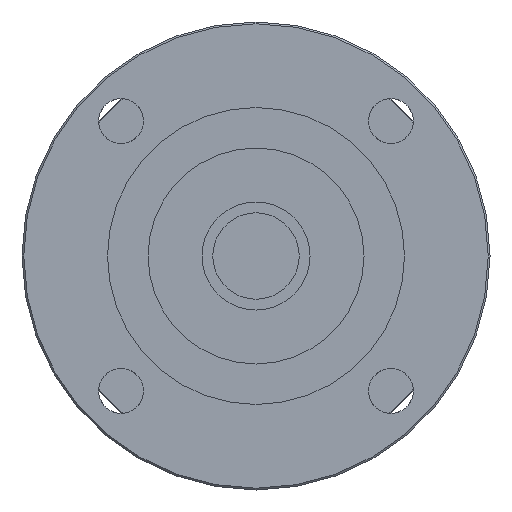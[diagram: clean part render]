
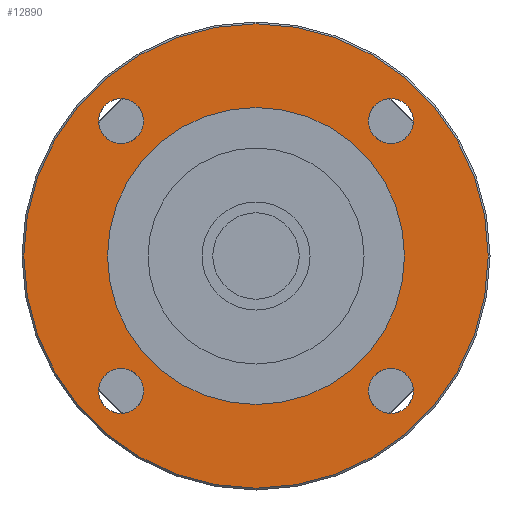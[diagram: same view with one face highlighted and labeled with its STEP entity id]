
A CAD part, left-side view. The second image highlights one B-rep face of the part: STEP entity #12890.
In plain terms, the highlighted planar face has unit normal (-1, 0, 0) as drawn and (0, 0, -1) by its records, which use the part's own axes.
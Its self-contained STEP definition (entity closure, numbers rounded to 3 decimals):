
#11810=CARTESIAN_POINT('',(-64.5,0.,-79.9));
#11820=VERTEX_POINT('',#11810);
#11850=CARTESIAN_POINT('',(0.,0.,
-79.9));
#11860=DIRECTION('',(0.,0.,-1.));
#11870=DIRECTION('',(1.,0.,0.));
#11880=AXIS2_PLACEMENT_3D('',#11850,#11860,#11870);
#11890=CIRCLE('',#11880,64.5);
#11900=CARTESIAN_POINT('',(64.5,0.,-79.9));
#11910=VERTEX_POINT('',#11900);
#11920=EDGE_CURVE('',#11820,#11910,#11890,.T.);
#12040=CARTESIAN_POINT('',(0.,0.,
-79.9));
#12050=DIRECTION('',(0.,0.,-1.));
#12060=DIRECTION('',(1.,0.,0.));
#12070=AXIS2_PLACEMENT_3D('',#12040,#12050,#12060);
#12080=PLANE('',#12070);
#12090=CARTESIAN_POINT('',(-37.477,-37.477,-79.9));
#12100=DIRECTION('',(0.,0.,-1.));
#12110=DIRECTION('',(1.,0.,0.));
#12120=AXIS2_PLACEMENT_3D('',#12090,#12100,#12110);
#12130=CIRCLE('',#12120,6.25);
#12140=CARTESIAN_POINT('',(-31.227,-37.477,-79.9));
#12150=VERTEX_POINT('',#12140);
#12160=CARTESIAN_POINT('',(-43.727,-37.477,-79.9));
#12170=VERTEX_POINT('',#12160);
#12180=EDGE_CURVE('',#12150,#12170,#12130,.T.);
#12190=ORIENTED_EDGE('',*,*,#12180,.F.);
#12200=EDGE_CURVE('',#12170,#12150,#12130,.T.);
#12210=ORIENTED_EDGE('',*,*,#12200,.F.);
#12220=EDGE_LOOP('',(#12210,#12190));
#12230=FACE_BOUND('',#12220,.T.);
#12240=CARTESIAN_POINT('',(-37.477,37.477,-79.9));
#12250=DIRECTION('',(0.,0.,-1.));
#12260=DIRECTION('',(1.,0.,0.));
#12270=AXIS2_PLACEMENT_3D('',#12240,#12250,#12260);
#12280=CIRCLE('',#12270,6.25);
#12290=CARTESIAN_POINT('',(-31.227,37.477,-79.9));
#12300=VERTEX_POINT('',#12290);
#12310=CARTESIAN_POINT('',(-43.727,37.477,-79.9));
#12320=VERTEX_POINT('',#12310);
#12330=EDGE_CURVE('',#12300,#12320,#12280,.T.);
#12340=ORIENTED_EDGE('',*,*,#12330,.F.);
#12350=EDGE_CURVE('',#12320,#12300,#12280,.T.);
#12360=ORIENTED_EDGE('',*,*,#12350,.F.);
#12370=EDGE_LOOP('',(#12360,#12340));
#12380=FACE_BOUND('',#12370,.T.);
#12390=CARTESIAN_POINT('',(37.477,37.477,-79.9));
#12400=DIRECTION('',(0.,0.,-1.));
#12410=DIRECTION('',(1.,0.,0.));
#12420=AXIS2_PLACEMENT_3D('',#12390,#12400,#12410);
#12430=CIRCLE('',#12420,6.25);
#12440=CARTESIAN_POINT('',(43.727,37.477,-79.9));
#12450=VERTEX_POINT('',#12440);
#12460=CARTESIAN_POINT('',(31.227,37.477,-79.9));
#12470=VERTEX_POINT('',#12460);
#12480=EDGE_CURVE('',#12450,#12470,#12430,.T.);
#12490=ORIENTED_EDGE('',*,*,#12480,.F.);
#12500=EDGE_CURVE('',#12470,#12450,#12430,.T.);
#12510=ORIENTED_EDGE('',*,*,#12500,.F.);
#12520=EDGE_LOOP('',(#12510,#12490));
#12530=FACE_BOUND('',#12520,.T.);
#12540=CARTESIAN_POINT('',(37.477,-37.477,-79.9));
#12550=DIRECTION('',(0.,0.,-1.));
#12560=DIRECTION('',(1.,0.,0.));
#12570=AXIS2_PLACEMENT_3D('',#12540,#12550,#12560);
#12580=CIRCLE('',#12570,6.25);
#12590=CARTESIAN_POINT('',(43.727,-37.477,-79.9));
#12600=VERTEX_POINT('',#12590);
#12610=CARTESIAN_POINT('',(31.227,-37.477,-79.9));
#12620=VERTEX_POINT('',#12610);
#12630=EDGE_CURVE('',#12600,#12620,#12580,.T.);
#12640=ORIENTED_EDGE('',*,*,#12630,.F.);
#12650=EDGE_CURVE('',#12620,#12600,#12580,.T.);
#12660=ORIENTED_EDGE('',*,*,#12650,.F.);
#12670=EDGE_LOOP('',(#12660,#12640));
#12680=FACE_BOUND('',#12670,.T.);
#12690=EDGE_CURVE('',#11910,#11820,#11890,.T.);
#12700=ORIENTED_EDGE('',*,*,#12690,.T.);
#12710=ORIENTED_EDGE('',*,*,#11920,.T.);
#12720=EDGE_LOOP('',(#12710,#12700));
#12730=FACE_OUTER_BOUND('',#12720,.T.);
#12740=CARTESIAN_POINT('',(0.,0.,
-79.9));
#12750=DIRECTION('',(0.,0.,1.));
#12760=DIRECTION('',(1.,0.,0.));
#12770=AXIS2_PLACEMENT_3D('',#12740,#12750,#12760);
#12780=CIRCLE('',#12770,41.25);
#12790=CARTESIAN_POINT('',(41.25,0.,-79.9));
#12800=VERTEX_POINT('',#12790);
#12810=CARTESIAN_POINT('',(-41.25,0.,-79.9));
#12820=VERTEX_POINT('',#12810);
#12830=EDGE_CURVE('',#12800,#12820,#12780,.T.);
#12840=ORIENTED_EDGE('',*,*,#12830,.T.);
#12850=EDGE_CURVE('',#12820,#12800,#12780,.T.);
#12860=ORIENTED_EDGE('',*,*,#12850,.T.);
#12870=EDGE_LOOP('',(#12860,#12840));
#12880=FACE_BOUND('',#12870,.T.);
#12890=ADVANCED_FACE('',(#12230,#12380,#12530,#12680,#12730,#12880),
#12080,.T.);
